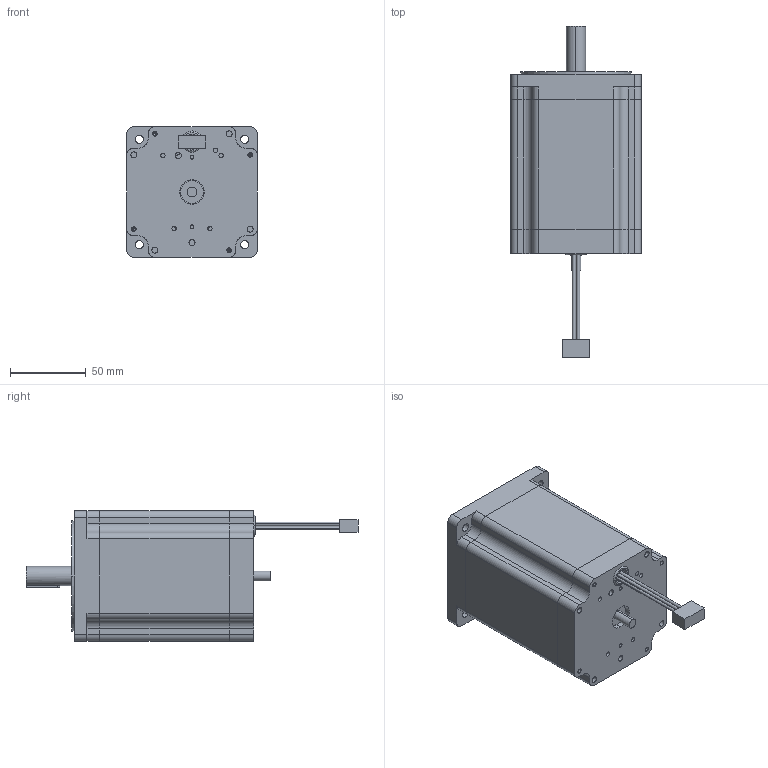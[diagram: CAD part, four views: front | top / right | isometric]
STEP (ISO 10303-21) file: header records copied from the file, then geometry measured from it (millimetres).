
FILE_DESCRIPTION((''),'2;1');
FILE_NAME('MT34HE47084B402_ASM','2025-12-19T18:41:29',('jason'),(''),'CREO PARAMETRIC BY PTC INC, 2020414','CREO PARAMETRIC BY PTC INC, 2020414','');
FILE_SCHEMA(('CONFIG_CONTROL_DESIGN'));
Length unit declared in the file: millimetre
Products named in the file (12): RE_1_1_1_1_1; RE_1_1_2_1_1; RE_1_1_3_1_1; RE_1_1_ASM_1_ASM_1_ASM; ST_1_1_1_1; FE_1_1_1_1; SF_1_1_1_1; MT34HE38100E4K1_ASM_1_ASM_1_ASM_ASM; MT34HE38100M4K4_ASM_1_ASM_1_ASM_ASM; MT34HE47084B402_ASM_1_ASM_1_ASM; ASM0004_ASM_1_ASM; MT34HE47084B402_ASM
Assembly tree (11 placements, depth 7):
  MT34HE47084B402_ASM
    ASM0004_ASM_1_ASM
      MT34HE47084B402_ASM_1_ASM_1_ASM
        MT34HE38100M4K4_ASM_1_ASM_1_ASM_ASM
          MT34HE38100E4K1_ASM_1_ASM_1_ASM_ASM
            RE_1_1_ASM_1_ASM_1_ASM
              RE_1_1_1_1_1
              RE_1_1_2_1_1
              RE_1_1_3_1_1
            ST_1_1_1_1
            FE_1_1_1_1
            SF_1_1_1_1
Bounding box: 86 x 219.25 x 86 mm (x, y, z)
Volume: 556649 mm3; surface area: 121065.7 mm2
Topology: 6 solids, 10 shells, 242 faces, 623 edges, 411 vertices
Faces by surface type: cylinder 143, plane 87, cone 8, torus 4
Entity records: 7875 total; most frequent: DIRECTION 1483, CARTESIAN_POINT 1316, ORIENTED_EDGE 1214, EDGE_CURVE 615, AXIS2_PLACEMENT_3D 593, VERTEX_POINT 411, CIRCLE 316, EDGE_LOOP 310
